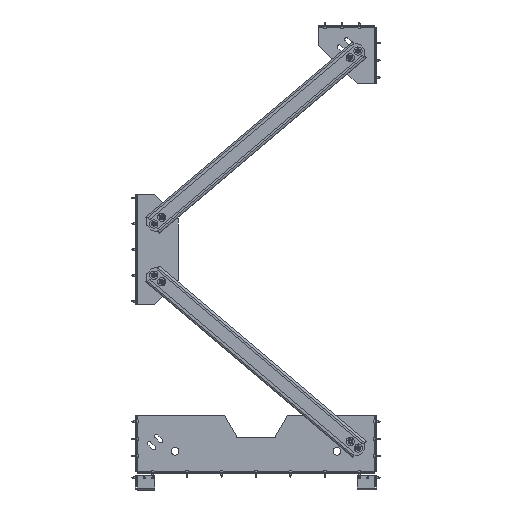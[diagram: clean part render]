
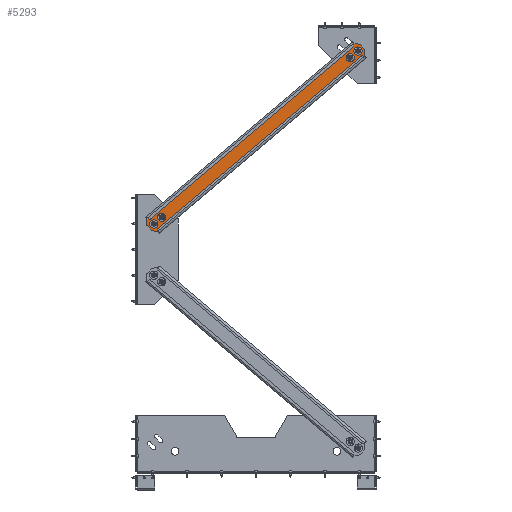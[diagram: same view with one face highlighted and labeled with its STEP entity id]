
A CAD part, front view. The second image highlights one B-rep face of the part: STEP entity #5293.
In plain terms, the highlighted planar face has unit normal (0, -1, 0) as drawn and (-1, 0, 0) by its records, which use the part's own axes.
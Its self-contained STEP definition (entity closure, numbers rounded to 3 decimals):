
#5293=ADVANCED_FACE('',(#8409,#8411,#8413,#8415,#8417),#8419,.T.);
#8409=FACE_BOUND('',#8410,.T.);
#8410=EDGE_LOOP('',(#17335,#17336,#17337,#17338,#17339,#17340,#17341,#17342,#17343,
#17344,#17345,#17346));
#8411=FACE_BOUND('',#8412,.T.);
#8412=EDGE_LOOP('',(#17347,#17348,#17349,#17350));
#8413=FACE_BOUND('',#8414,.T.);
#8414=EDGE_LOOP('',(#17351,#17352,#17353,#17354));
#8415=FACE_BOUND('',#8416,.T.);
#8416=EDGE_LOOP('',(#17355));
#8417=FACE_BOUND('',#8418,.T.);
#8418=EDGE_LOOP('',(#17356));
#8419=PLANE('',#8420);
#8420=AXIS2_PLACEMENT_3D('',#8421,#8422,#8423);
#8421=CARTESIAN_POINT('',(16.5,54.4,0.));
#8422=DIRECTION('',(-1.,0.,0.));
#8423=DIRECTION('',(0.,-1.,0.));
#17335=ORIENTED_EDGE('',*,*,#20019,.F.);
#17336=ORIENTED_EDGE('',*,*,#20020,.T.);
#17337=ORIENTED_EDGE('',*,*,#20021,.F.);
#17338=ORIENTED_EDGE('',*,*,#19999,.T.);
#17339=ORIENTED_EDGE('',*,*,#19996,.T.);
#17340=ORIENTED_EDGE('',*,*,#19994,.T.);
#17341=ORIENTED_EDGE('',*,*,#20022,.F.);
#17342=ORIENTED_EDGE('',*,*,#20023,.F.);
#17343=ORIENTED_EDGE('',*,*,#20024,.F.);
#17344=ORIENTED_EDGE('',*,*,#19992,.T.);
#17345=ORIENTED_EDGE('',*,*,#19989,.F.);
#17346=ORIENTED_EDGE('',*,*,#20001,.T.);
#17347=ORIENTED_EDGE('',*,*,#20025,.T.);
#17348=ORIENTED_EDGE('',*,*,#20026,.T.);
#17349=ORIENTED_EDGE('',*,*,#20027,.T.);
#17350=ORIENTED_EDGE('',*,*,#20028,.T.);
#17351=ORIENTED_EDGE('',*,*,#20029,.T.);
#17352=ORIENTED_EDGE('',*,*,#20030,.T.);
#17353=ORIENTED_EDGE('',*,*,#20031,.T.);
#17354=ORIENTED_EDGE('',*,*,#20032,.T.);
#17355=ORIENTED_EDGE('',*,*,#20033,.T.);
#17356=ORIENTED_EDGE('',*,*,#20034,.T.);
#19989=EDGE_CURVE('',#22114,#22096,#22119,.T.);
#19992=EDGE_CURVE('',#22120,#22096,#22124,.F.);
#19994=EDGE_CURVE('',#22103,#22125,#22128,.F.);
#19996=EDGE_CURVE('',#22107,#22103,#22130,.T.);
#19999=EDGE_CURVE('',#22131,#22107,#22135,.F.);
#20001=EDGE_CURVE('',#22114,#22136,#22139,.F.);
#20019=EDGE_CURVE('',#22171,#22136,#22172,.F.);
#20020=EDGE_CURVE('',#22171,#22173,#22174,.T.);
#20021=EDGE_CURVE('',#22131,#22173,#22175,.F.);
#20022=EDGE_CURVE('',#22176,#22125,#22177,.F.);
#20023=EDGE_CURVE('',#22178,#22176,#22179,.T.);
#20024=EDGE_CURVE('',#22120,#22178,#22180,.F.);
#20025=EDGE_CURVE('',#22181,#22182,#22183,.F.);
#20026=EDGE_CURVE('',#22182,#22184,#22185,.T.);
#20027=EDGE_CURVE('',#22184,#22186,#22187,.F.);
#20028=EDGE_CURVE('',#22186,#22181,#22188,.T.);
#20029=EDGE_CURVE('',#22189,#22190,#22191,.T.);
#20030=EDGE_CURVE('',#22190,#22192,#22193,.F.);
#20031=EDGE_CURVE('',#22192,#22194,#22195,.T.);
#20032=EDGE_CURVE('',#22194,#22189,#22196,.F.);
#20033=EDGE_CURVE('',#22197,#22197,#22198,.T.);
#20034=EDGE_CURVE('',#22199,#22199,#22200,.T.);
#22096=VERTEX_POINT('',#26514);
#22103=VERTEX_POINT('',#26532);
#22107=VERTEX_POINT('',#26543);
#22114=VERTEX_POINT('',#26561);
#22119=LINE('',#26575,#26576);
#22120=VERTEX_POINT('',#26578);
#22124=LINE('',#26586,#26587);
#22125=VERTEX_POINT('',#26589);
#22128=LINE('',#26594,#26595);
#22130=LINE('',#26600,#26601);
#22131=VERTEX_POINT('',#26603);
#22135=LINE('',#26611,#26612);
#22136=VERTEX_POINT('',#26614);
#22139=LINE('',#26619,#26620);
#22171=VERTEX_POINT('',#26697);
#22172=CIRCLE('',#26698,3.);
#22173=VERTEX_POINT('',#26702);
#22174=LINE('',#26703,#26704);
#22175=CIRCLE('',#26706,3.);
#22176=VERTEX_POINT('',#26710);
#22177=CIRCLE('',#26711,3.);
#22178=VERTEX_POINT('',#26715);
#22179=LINE('',#26716,#26717);
#22180=CIRCLE('',#26719,3.);
#22181=VERTEX_POINT('',#26723);
#22182=VERTEX_POINT('',#26724);
#22183=LINE('',#26725,#26726);
#22184=VERTEX_POINT('',#26728);
#22185=CIRCLE('',#26729,4.5);
#22186=VERTEX_POINT('',#26733);
#22187=LINE('',#26734,#26735);
#22188=CIRCLE('',#26737,4.5);
#22189=VERTEX_POINT('',#26741);
#22190=VERTEX_POINT('',#26742);
#22191=CIRCLE('',#26743,4.5);
#22192=VERTEX_POINT('',#26747);
#22193=LINE('',#26748,#26749);
#22194=VERTEX_POINT('',#26751);
#22195=CIRCLE('',#26752,4.5);
#22196=LINE('',#26756,#26757);
#22197=VERTEX_POINT('',#26759);
#22198=CIRCLE('',#26760,4.5);
#22199=VERTEX_POINT('',#26764);
#22200=CIRCLE('',#26765,4.5);
#26514=CARTESIAN_POINT('',(16.5,54.4,800.5));
#26532=CARTESIAN_POINT('',(16.5,5.6,800.5));
#26543=CARTESIAN_POINT('',(16.5,5.6,12.5));
#26561=CARTESIAN_POINT('',(16.5,54.4,12.5));
#26575=CARTESIAN_POINT('',(16.5,54.4,12.5));
#26576=VECTOR('',#26577,1.);
#26577=DIRECTION('',(0.,0.,1.));
#26578=CARTESIAN_POINT('',(16.5,40.846,812.266));
#26586=CARTESIAN_POINT('',(16.5,54.4,800.5));
#26587=VECTOR('',#26588,1.);
#26588=DIRECTION('',(0.,-0.755,0.656));
#26589=CARTESIAN_POINT('',(16.5,19.154,812.266));
#26594=CARTESIAN_POINT('',(16.5,19.154,812.266));
#26595=VECTOR('',#26596,1.);
#26596=DIRECTION('',(0.,-0.755,-0.656));
#26600=CARTESIAN_POINT('',(16.5,5.6,12.5));
#26601=VECTOR('',#26602,1.);
#26602=DIRECTION('',(0.,0.,1.));
#26603=CARTESIAN_POINT('',(16.5,19.154,0.734));
#26611=CARTESIAN_POINT('',(16.5,5.6,12.5));
#26612=VECTOR('',#26613,1.);
#26613=DIRECTION('',(0.,0.755,-0.656));
#26614=CARTESIAN_POINT('',(16.5,40.846,0.734));
#26619=CARTESIAN_POINT('',(16.5,40.846,0.734));
#26620=VECTOR('',#26621,1.);
#26621=DIRECTION('',(0.,0.755,0.656));
#26697=CARTESIAN_POINT('',(16.5,38.88,0.));
#26698=AXIS2_PLACEMENT_3D('',#26699,#26700,#26701);
#26699=CARTESIAN_POINT('',(16.5,38.88,3.));
#26700=DIRECTION('',(-1.,0.,0.));
#26701=DIRECTION('',(0.,0.656,-0.755));
#26702=CARTESIAN_POINT('',(16.5,21.12,0.));
#26703=CARTESIAN_POINT('',(16.5,38.88,0.));
#26704=VECTOR('',#26705,1.);
#26705=DIRECTION('',(0.,-1.,0.));
#26706=AXIS2_PLACEMENT_3D('',#26707,#26708,#26709);
#26707=CARTESIAN_POINT('',(16.5,21.12,3.));
#26708=DIRECTION('',(-1.,0.,0.));
#26709=DIRECTION('',(0.,0.,-1.));
#26710=CARTESIAN_POINT('',(16.5,21.12,813.));
#26711=AXIS2_PLACEMENT_3D('',#26712,#26713,#26714);
#26712=CARTESIAN_POINT('',(16.5,21.12,810.));
#26713=DIRECTION('',(-1.,0.,0.));
#26714=DIRECTION('',(0.,-0.656,0.755));
#26715=CARTESIAN_POINT('',(16.5,38.88,813.));
#26716=CARTESIAN_POINT('',(16.5,38.88,813.));
#26717=VECTOR('',#26718,1.);
#26718=DIRECTION('',(0.,-1.,0.));
#26719=AXIS2_PLACEMENT_3D('',#26720,#26721,#26722);
#26720=CARTESIAN_POINT('',(16.5,38.88,810.));
#26721=DIRECTION('',(-1.,0.,0.));
#26722=DIRECTION('',(0.,0.,1.));
#26723=CARTESIAN_POINT('',(16.5,25.5,55.));
#26724=CARTESIAN_POINT('',(16.5,25.5,44.));
#26725=CARTESIAN_POINT('',(16.5,25.5,44.));
#26726=VECTOR('',#26727,1.);
#26727=DIRECTION('',(0.,0.,1.));
#26728=CARTESIAN_POINT('',(16.5,34.5,44.));
#26729=AXIS2_PLACEMENT_3D('',#26730,#26731,#26732);
#26730=CARTESIAN_POINT('',(16.5,30.,44.));
#26731=DIRECTION('',(1.,0.,0.));
#26732=DIRECTION('',(0.,-1.,0.));
#26733=CARTESIAN_POINT('',(16.5,34.5,55.));
#26734=CARTESIAN_POINT('',(16.5,34.5,55.));
#26735=VECTOR('',#26736,1.);
#26736=DIRECTION('',(0.,0.,-1.));
#26737=AXIS2_PLACEMENT_3D('',#26738,#26739,#26740);
#26738=CARTESIAN_POINT('',(16.5,30.,55.));
#26739=DIRECTION('',(1.,0.,0.));
#26740=DIRECTION('',(0.,1.,0.));
#26741=CARTESIAN_POINT('',(16.5,34.5,769.));
#26742=CARTESIAN_POINT('',(16.5,25.5,769.));
#26743=AXIS2_PLACEMENT_3D('',#26744,#26745,#26746);
#26744=CARTESIAN_POINT('',(16.5,30.,769.));
#26745=DIRECTION('',(1.,0.,0.));
#26746=DIRECTION('',(0.,1.,0.));
#26747=CARTESIAN_POINT('',(16.5,25.5,758.));
#26748=CARTESIAN_POINT('',(16.5,25.5,758.));
#26749=VECTOR('',#26750,1.);
#26750=DIRECTION('',(0.,0.,1.));
#26751=CARTESIAN_POINT('',(16.5,34.5,758.));
#26752=AXIS2_PLACEMENT_3D('',#26753,#26754,#26755);
#26753=CARTESIAN_POINT('',(16.5,30.,758.));
#26754=DIRECTION('',(1.,0.,0.));
#26755=DIRECTION('',(0.,-1.,0.));
#26756=CARTESIAN_POINT('',(16.5,34.5,769.));
#26757=VECTOR('',#26758,1.);
#26758=DIRECTION('',(0.,0.,-1.));
#26759=CARTESIAN_POINT('',(16.5,30.,22.5));
#26760=AXIS2_PLACEMENT_3D('',#26761,#26762,#26763);
#26761=CARTESIAN_POINT('',(16.5,30.,18.));
#26762=DIRECTION('',(1.,0.,0.));
#26763=DIRECTION('',(0.,0.,1.));
#26764=CARTESIAN_POINT('',(16.5,30.,799.5));
#26765=AXIS2_PLACEMENT_3D('',#26766,#26767,#26768);
#26766=CARTESIAN_POINT('',(16.5,30.,795.));
#26767=DIRECTION('',(1.,0.,0.));
#26768=DIRECTION('',(0.,0.,1.));
